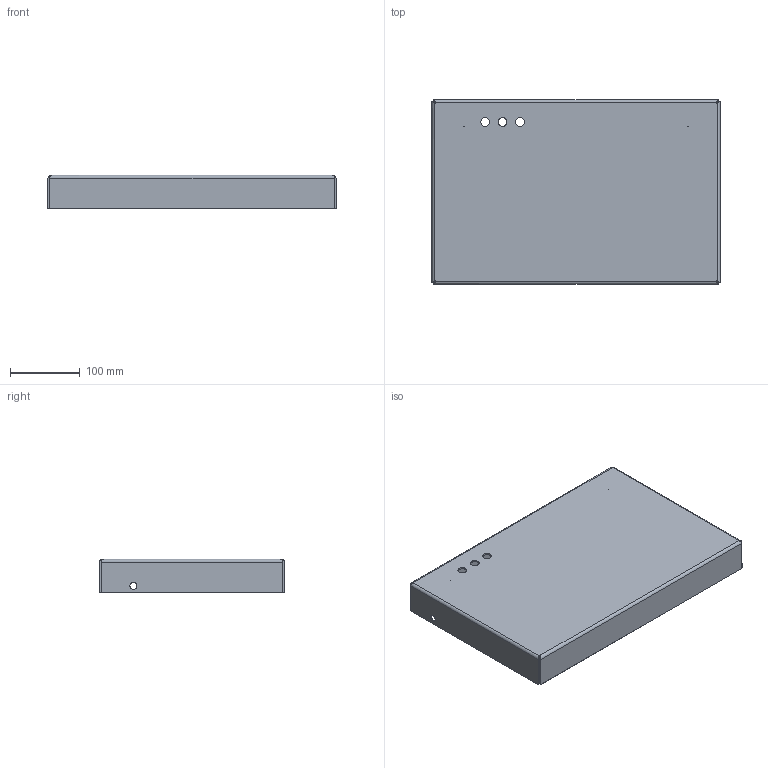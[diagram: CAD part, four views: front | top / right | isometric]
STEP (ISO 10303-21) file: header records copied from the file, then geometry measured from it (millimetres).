
FILE_DESCRIPTION (( 'STEP AP203' ), '1' );
FILE_NAME ('ORW-72.24.20.10.009 Êîðîá.STEP', '2025-10-13T13:18:09', ( 'Àíäðåé' ), ( '' ), 'SwSTEP 2.0', 'SolidWorks 2025', '' );
FILE_SCHEMA (( 'CONFIG_CONTROL_DESIGN' ));
Length unit declared in the file: millimetre
Products named in the file (1): ORW-72.24.20.10.009 Короб
Bounding box: 412 x 264 x 48 mm (x, y, z)
Volume: 335032.3 mm3; surface area: 338759.3 mm2
Topology: 1 solids, 1 shells, 77 faces, 196 edges, 121 vertices
Faces by surface type: plane 34, bspline 24, cylinder 19
Full cylindrical faces by diameter (mm): 0.5 x2, 10 x2, 12.5 x3
Entity records: 2573 total; most frequent: CARTESIAN_POINT 918, ORIENTED_EDGE 372, DIRECTION 220, EDGE_CURVE 186, VERTEX_POINT 118, EDGE_LOOP 98, B_SPLINE_CURVE_WITH_KNOTS 96, FACE_OUTER_BOUND 84
